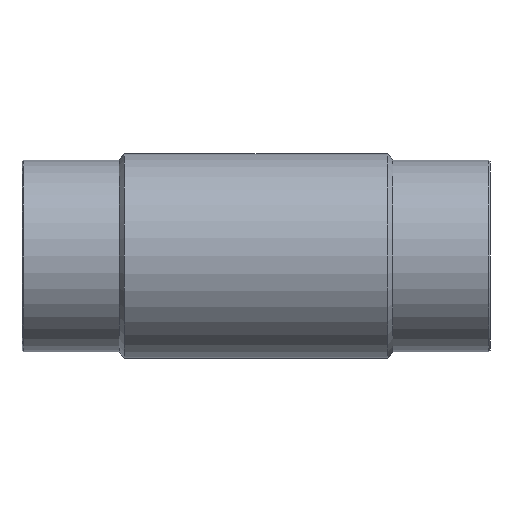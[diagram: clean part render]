
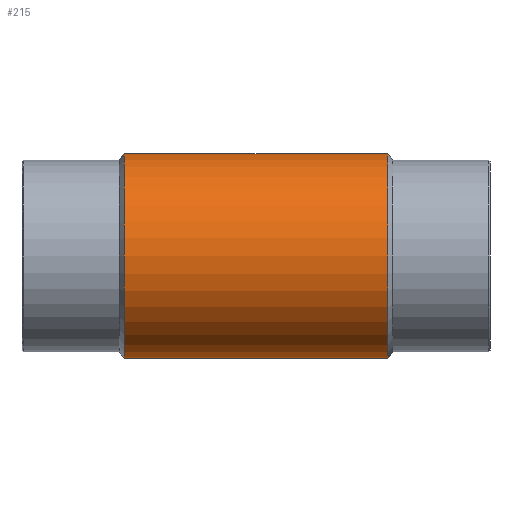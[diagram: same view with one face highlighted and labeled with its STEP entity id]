
A CAD part, front view. The second image highlights one B-rep face of the part: STEP entity #215.
In plain terms, the highlighted cylindrical face has radius 150 mm (diameter 300 mm), a full revolution.
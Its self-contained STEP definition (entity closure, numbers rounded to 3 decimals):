
#33=CIRCLE('',#250,150.);
#35=CIRCLE('',#255,150.);
#52=ORIENTED_EDGE('',*,*,#94,.T.);
#53=ORIENTED_EDGE('',*,*,#95,.T.);
#54=ORIENTED_EDGE('',*,*,#96,.F.);
#55=ORIENTED_EDGE('',*,*,#92,.T.);
#92=EDGE_CURVE('',#113,#113,#33,.T.);
#94=EDGE_CURVE('',#115,#116,#130,.T.);
#95=EDGE_CURVE('',#116,#115,#131,.F.);
#96=EDGE_CURVE('',#117,#117,#35,.T.);
#113=VERTEX_POINT('',#369);
#115=VERTEX_POINT('',#374);
#116=VERTEX_POINT('',#375);
#117=VERTEX_POINT('',#378);
#130=ELLIPSE('',#253,215.697,150.);
#131=ELLIPSE('',#254,215.697,150.);
#139=EDGE_LOOP('',(#52,#53));
#140=EDGE_LOOP('',(#54));
#141=EDGE_LOOP('',(#55));
#175=FACE_BOUND('',#139,.T.);
#176=FACE_BOUND('',#140,.T.);
#177=FACE_BOUND('',#141,.T.);
#207=CYLINDRICAL_SURFACE('',#252,150.);
#215=ADVANCED_FACE('',(#175,#176,#177),#207,.T.);
#250=AXIS2_PLACEMENT_3D('',#368,#295,#296);
#252=AXIS2_PLACEMENT_3D('',#372,#299,#300);
#253=AXIS2_PLACEMENT_3D('',#373,#301,#302);
#254=AXIS2_PLACEMENT_3D('',#376,#303,#304);
#255=AXIS2_PLACEMENT_3D('',#377,#305,#306);
#295=DIRECTION('',(-1.,0.,0.));
#296=DIRECTION('',(0.,0.,1.));
#299=DIRECTION('',(-1.,0.,0.));
#300=DIRECTION('',(0.,0.,1.));
#301=DIRECTION('',(0.695,-0.719,0.));
#302=DIRECTION('',(-0.719,-0.695,0.));
#303=DIRECTION('',(0.695,0.719,0.));
#304=DIRECTION('',(-0.719,0.695,0.));
#305=DIRECTION('',(-1.,0.,0.));
#306=DIRECTION('',(0.,0.,1.));
#368=CARTESIAN_POINT('',(192.5,0.,0.));
#369=CARTESIAN_POINT('',(192.5,0.,150.));
#372=CARTESIAN_POINT('',(-60.,0.,0.));
#373=CARTESIAN_POINT('',(0.,0.,0.));
#374=CARTESIAN_POINT('',(0.,0.,-150.));
#375=CARTESIAN_POINT('',(0.,0.,150.));
#376=CARTESIAN_POINT('',(0.,0.,0.));
#377=CARTESIAN_POINT('',(-192.5,0.,0.));
#378=CARTESIAN_POINT('',(-192.5,0.,150.));
